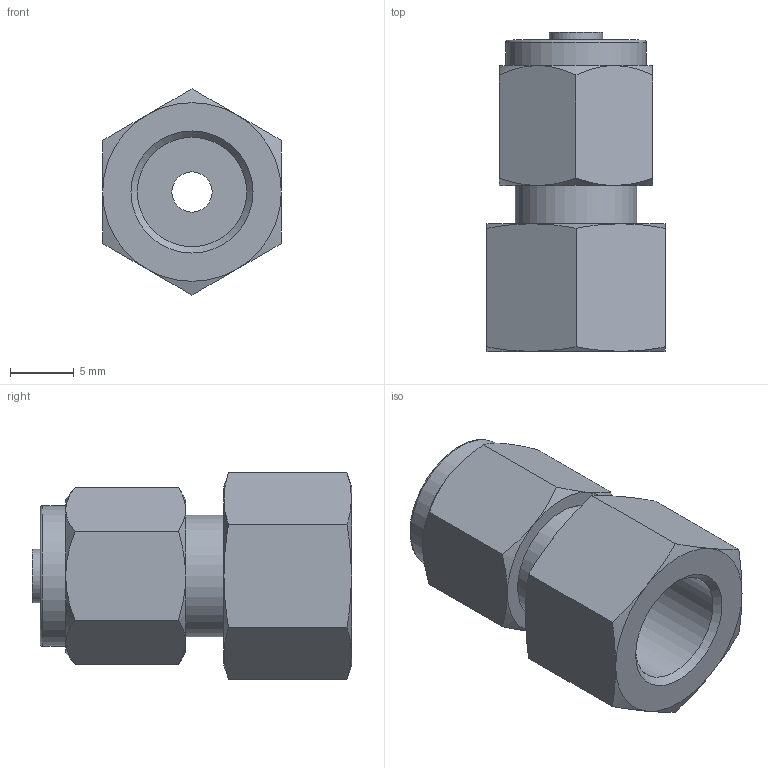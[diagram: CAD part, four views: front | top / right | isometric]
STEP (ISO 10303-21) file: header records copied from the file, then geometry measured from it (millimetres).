
FILE_DESCRIPTION(/* description */ (''),/* implementation_level */ '2;1');
FILE_NAME(/* name */ 'CXH14 0604 B1.stp',/* time_stamp */ '2025-01-12T14:58:34+01:00',/* author */ ('freju'),/* organization */ (''),/* preprocessor_version */ 'ST-DEVELOPER v20',/* originating_system */ 'Autodesk Inventor 2025',/* authorisation */ '');
FILE_SCHEMA (('AUTOMOTIVE_DESIGN { 1 0 10303 214 3 1 1 }'));
Length unit declared in the file: millimetre
Products named in the file (3): CXH14 0604 B1; CXH14 0604 B1_1; CXH DADO
Assembly tree (2 placements, depth 2):
  CXH14 0604 B1
    CXH14 0604 B1_1
    CXH DADO
Bounding box: 14 x 25 x 16.17 mm (x, y, z)
Volume: 2480.8 mm3; surface area: 2395.4 mm2
Topology: 2 solids, 2 shells, 59 faces, 124 edges, 75 vertices
Faces by surface type: cone 29, plane 21, cylinder 8, torus 1
Full cylindrical faces by diameter (mm): 3.15 x1, 4.2 x1, 5.1 x1, 8 x1, 8.566 x1, 8.917 x1, 9.5 x1, 11 x1
Entity records: 1639 total; most frequent: CARTESIAN_POINT 359, DIRECTION 255, ORIENTED_EDGE 248, EDGE_CURVE 124, AXIS2_PLACEMENT_3D 115, VERTEX_POINT 74, EDGE_LOOP 68, FACE_OUTER_BOUND 59
